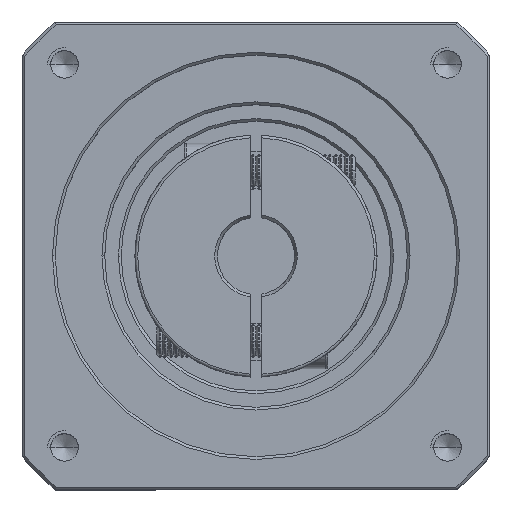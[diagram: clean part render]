
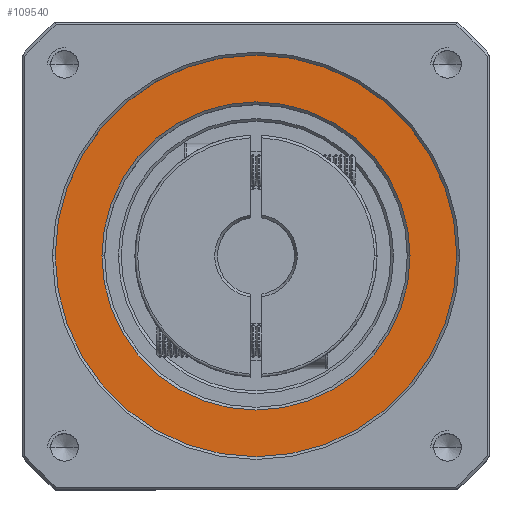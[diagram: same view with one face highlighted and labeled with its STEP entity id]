
A CAD part, top view. The second image highlights one B-rep face of the part: STEP entity #109540.
In plain terms, the highlighted planar face has unit normal (0, 0, 1).
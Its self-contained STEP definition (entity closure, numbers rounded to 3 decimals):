
#517 = ORIENTED_EDGE ( 'NONE', *, *, #109636, .T. ) ;
#3616 = CARTESIAN_POINT ( 'NONE',  ( -95.807, 41.931, 45.967 ) ) ;
#4303 = DIRECTION ( 'NONE',  ( 0., 0., 1. ) ) ;
#4678 = FACE_BOUND ( 'NONE', #61922, .T. ) ;
#5667 = VERTEX_POINT ( 'NONE', #67210 ) ;
#6022 = DIRECTION ( 'NONE',  ( 0., 0., -1. ) ) ;
#9109 = CARTESIAN_POINT ( 'NONE',  ( -123.807, 41.931, 45.967 ) ) ;
#13057 = DIRECTION ( 'NONE',  ( 1., 0., 0. ) ) ;
#13250 = CARTESIAN_POINT ( 'NONE',  ( -95.807, 41.931, 45.967 ) ) ;
#13551 = EDGE_LOOP ( 'NONE', ( #517, #65533 ) ) ;
#17513 = CARTESIAN_POINT ( 'NONE',  ( -132.307, 41.931, 45.967 ) ) ;
#21103 = AXIS2_PLACEMENT_3D ( 'NONE', #13250, #78718, #22620 ) ;
#22620 = DIRECTION ( 'NONE',  ( 1., 0., 0. ) ) ;
#24457 = CARTESIAN_POINT ( 'NONE',  ( -95.807, 41.931, 45.967 ) ) ;
#28120 = EDGE_CURVE ( 'NONE', #28607, #5667, #43603, .T. ) ;
#28607 = VERTEX_POINT ( 'NONE', #17513 ) ;
#32544 = EDGE_CURVE ( 'NONE', #77889, #36420, #119300, .T. ) ;
#33854 = DIRECTION ( 'NONE',  ( 1., 0., 0. ) ) ;
#36420 = VERTEX_POINT ( 'NONE', #9109 ) ;
#40446 = PLANE ( 'NONE',  #46943 ) ;
#43603 = CIRCLE ( 'NONE', #60598, 36.5 ) ;
#46943 = AXIS2_PLACEMENT_3D ( 'NONE', #3616, #69146, #13057 ) ;
#54466 = FACE_OUTER_BOUND ( 'NONE', #13551, .T. ) ;
#58866 = CIRCLE ( 'NONE', #84516, 36.5 ) ;
#60402 = CARTESIAN_POINT ( 'NONE',  ( -95.807, 41.931, 45.967 ) ) ;
#60598 = AXIS2_PLACEMENT_3D ( 'NONE', #60402, #4303, #69816 ) ;
#61922 = EDGE_LOOP ( 'NONE', ( #106012, #70749 ) ) ;
#62097 = CARTESIAN_POINT ( 'NONE',  ( -95.807, 41.931, 45.967 ) ) ;
#65533 = ORIENTED_EDGE ( 'NONE', *, *, #28120, .T. ) ;
#67210 = CARTESIAN_POINT ( 'NONE',  ( -59.307, 41.931, 45.967 ) ) ;
#69146 = DIRECTION ( 'NONE',  ( 0., 0., 1. ) ) ;
#69816 = DIRECTION ( 'NONE',  ( 1., 0., 0. ) ) ;
#70749 = ORIENTED_EDGE ( 'NONE', *, *, #108846, .T. ) ;
#71520 = DIRECTION ( 'NONE',  ( 1., 0., 0. ) ) ;
#77889 = VERTEX_POINT ( 'NONE', #115707 ) ;
#78718 = DIRECTION ( 'NONE',  ( 0., 0., -1. ) ) ;
#81301 = AXIS2_PLACEMENT_3D ( 'NONE', #62097, #6022, #71520 ) ;
#84516 = AXIS2_PLACEMENT_3D ( 'NONE', #24457, #89854, #33854 ) ;
#86925 = CIRCLE ( 'NONE', #81301, 28. ) ;
#89854 = DIRECTION ( 'NONE',  ( 0., 0., 1. ) ) ;
#106012 = ORIENTED_EDGE ( 'NONE', *, *, #32544, .T. ) ;
#108846 = EDGE_CURVE ( 'NONE', #36420, #77889, #86925, .T. ) ;
#109540 = ADVANCED_FACE ( 'NONE', ( #54466, #4678 ), #40446, .T. ) ;
#109636 = EDGE_CURVE ( 'NONE', #5667, #28607, #58866, .T. ) ;
#115707 = CARTESIAN_POINT ( 'NONE',  ( -67.807, 41.931, 45.967 ) ) ;
#119300 = CIRCLE ( 'NONE', #21103, 28. ) ;
